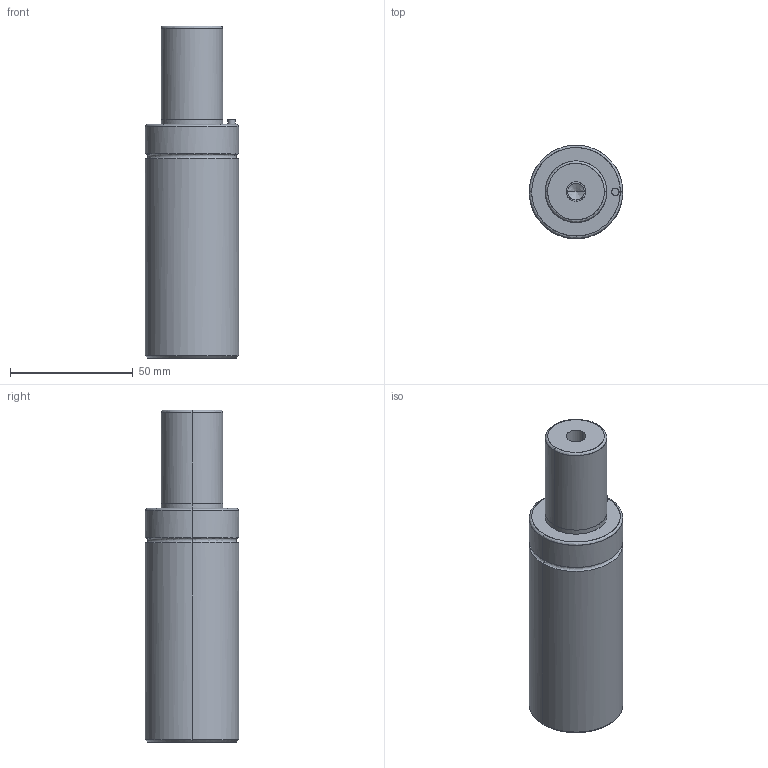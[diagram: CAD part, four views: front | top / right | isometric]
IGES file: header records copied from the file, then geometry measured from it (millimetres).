
Global section: file name: E:\UnigraphicsGraphicData\MISUMI_PRESS-PARTS\IGES\3d_gsm38-38_03931_r00.igs; native system: NX V5.0; preprocessor: UGS NX IGES V5.0; author: MISUMI; date: 20110105.160813; units: millimetre
Bounding box: 38 x 37.92 x 135 mm (x, y, z)
Surface area: 17728.3 mm2 (no closed solid volume)
Topology: 0 solids, 0 shells, 50 faces, 328 edges, 320 vertices
Faces by surface type: bspline 50
